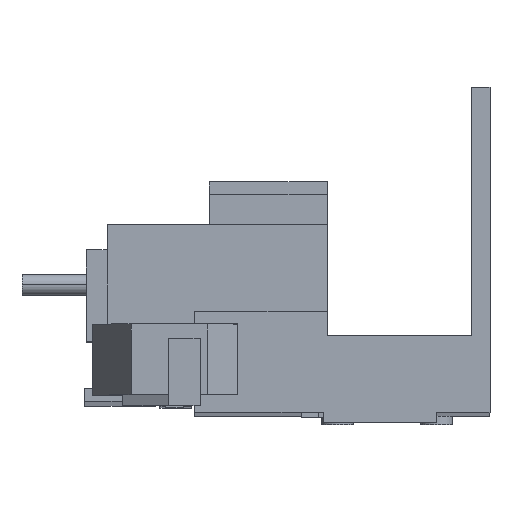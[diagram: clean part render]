
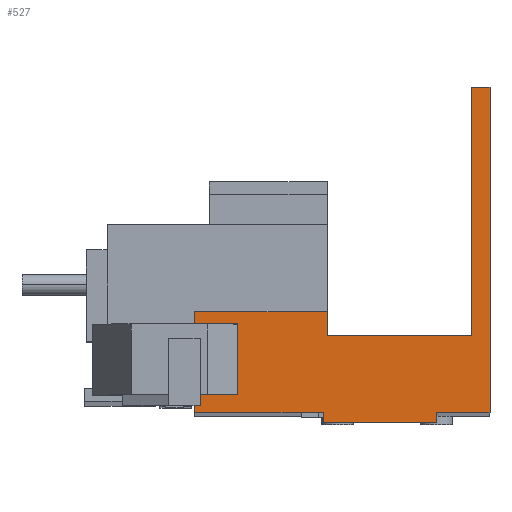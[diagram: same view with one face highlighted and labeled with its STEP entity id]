
A CAD part, front view. The second image highlights one B-rep face of the part: STEP entity #527.
In plain terms, the highlighted planar face has unit normal (0, -1, 0.002).
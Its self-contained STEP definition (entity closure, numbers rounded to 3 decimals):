
#190 = FACE_OUTER_BOUND ( 'NONE', #5348, .T. ) ;
#406 = VERTEX_POINT ( 'NONE', #3871 ) ;
#439 = DIRECTION ( 'NONE',  ( -1., 0., 0. ) ) ;
#440 = DIRECTION ( 'NONE',  ( 0., 1., -0.002 ) ) ;
#454 = CARTESIAN_POINT ( 'NONE',  ( 0., -33.075, -35.931 ) ) ;
#455 = PLANE ( 'NONE',  #2003 ) ;
#527 = ADVANCED_FACE ( 'NONE', ( #190 ), #455, .F. ) ;
#729 = CARTESIAN_POINT ( 'NONE',  ( 0., -32.98, 9.819 ) ) ;
#730 = DIRECTION ( 'NONE',  ( 0., 0.002, 1. ) ) ;
#800 = CARTESIAN_POINT ( 'NONE',  ( -41.6, -33.046, -21.831 ) ) ;
#801 = DIRECTION ( 'NONE',  ( -1., 0., 0. ) ) ;
#831 = CARTESIAN_POINT ( 'NONE',  ( -2.55, -32.98, 9.819 ) ) ;
#866 = VERTEX_POINT ( 'NONE', #5233 ) ;
#881 = ORIENTED_EDGE ( 'NONE', *, *, #1978, .T. ) ;
#886 = ORIENTED_EDGE ( 'NONE', *, *, #2271, .T. ) ;
#889 = ORIENTED_EDGE ( 'NONE', *, *, #2197, .T. ) ;
#901 = ORIENTED_EDGE ( 'NONE', *, *, #2106, .F. ) ;
#924 = ORIENTED_EDGE ( 'NONE', *, *, #2306, .T. ) ;
#929 = ORIENTED_EDGE ( 'NONE', *, *, #1868, .T. ) ;
#944 = ORIENTED_EDGE ( 'NONE', *, *, #2076, .T. ) ;
#980 = VERTEX_POINT ( 'NONE', #5284 ) ;
#994 = ORIENTED_EDGE ( 'NONE', *, *, #2211, .F. ) ;
#1004 = ORIENTED_EDGE ( 'NONE', *, *, #2165, .T. ) ;
#1014 = ORIENTED_EDGE ( 'NONE', *, *, #2201, .T. ) ;
#1035 = VERTEX_POINT ( 'NONE', #5311 ) ;
#1070 = VERTEX_POINT ( 'NONE', #5286 ) ;
#1073 = VERTEX_POINT ( 'NONE', #5328 ) ;
#1219 = VERTEX_POINT ( 'NONE', #4445 ) ;
#1228 = VERTEX_POINT ( 'NONE', #4416 ) ;
#1410 = VERTEX_POINT ( 'NONE', #4503 ) ;
#1432 = VERTEX_POINT ( 'NONE', #4512 ) ;
#1448 = ORIENTED_EDGE ( 'NONE', *, *, #1965, .T. ) ;
#1454 = ORIENTED_EDGE ( 'NONE', *, *, #2125, .T. ) ;
#1675 = VERTEX_POINT ( 'NONE', #5083 ) ;
#1868 = EDGE_CURVE ( 'NONE', #1228, #1073, #3530, .T. ) ;
#1965 = EDGE_CURVE ( 'NONE', #1432, #866, #2887, .T. ) ;
#1978 = EDGE_CURVE ( 'NONE', #1035, #1228, #2897, .T. ) ;
#2003 = AXIS2_PLACEMENT_3D ( 'NONE', #454, #440, #439 ) ;
#2076 = EDGE_CURVE ( 'NONE', #5496, #1432, #3512, .T. ) ;
#2106 = EDGE_CURVE ( 'NONE', #980, #1410, #3535, .T. ) ;
#2125 = EDGE_CURVE ( 'NONE', #866, #1675, #3574, .T. ) ;
#2165 = EDGE_CURVE ( 'NONE', #1219, #1070, #3372, .T. ) ;
#2197 = EDGE_CURVE ( 'NONE', #406, #5496, #2598, .T. ) ;
#2201 = EDGE_CURVE ( 'NONE', #980, #1219, #3599, .T. ) ;
#2211 = EDGE_CURVE ( 'NONE', #1410, #1073, #3055, .T. ) ;
#2271 = EDGE_CURVE ( 'NONE', #1070, #406, #2770, .T. ) ;
#2306 = EDGE_CURVE ( 'NONE', #1675, #1035, #3290, .T. ) ;
#2598 = LINE ( 'NONE', #3839, #3610 ) ;
#2692 = VECTOR ( 'NONE', #3897, 1000. ) ;
#2770 = LINE ( 'NONE', #729, #3389 ) ;
#2887 = LINE ( 'NONE', #4295, #3348 ) ;
#2897 = LINE ( 'NONE', #4381, #3529 ) ;
#3010 = VECTOR ( 'NONE', #4044, 1000. ) ;
#3055 = LINE ( 'NONE', #3807, #3161 ) ;
#3138 = VECTOR ( 'NONE', #3964, 1000. ) ;
#3161 = VECTOR ( 'NONE', #3806, 1000. ) ;
#3179 = VECTOR ( 'NONE', #801, 1000. ) ;
#3203 = VECTOR ( 'NONE', #3823, 1000. ) ;
#3290 = LINE ( 'NONE', #800, #3179 ) ;
#3348 = VECTOR ( 'NONE', #4293, 1000. ) ;
#3372 = LINE ( 'NONE', #3898, #2692 ) ;
#3389 = VECTOR ( 'NONE', #730, 1000. ) ;
#3512 = LINE ( 'NONE', #4049, #3010 ) ;
#3529 = VECTOR ( 'NONE', #4464, 1000. ) ;
#3530 = LINE ( 'NONE', #4678, #3581 ) ;
#3535 = LINE ( 'NONE', #4003, #3580 ) ;
#3574 = LINE ( 'NONE', #3965, #3138 ) ;
#3580 = VECTOR ( 'NONE', #3989, 1000. ) ;
#3581 = VECTOR ( 'NONE', #4665, 1000. ) ;
#3599 = LINE ( 'NONE', #3825, #3203 ) ;
#3610 = VECTOR ( 'NONE', #3832, 1000. ) ;
#3806 = DIRECTION ( 'NONE',  ( 0., 0.002, 1. ) ) ;
#3807 = CARTESIAN_POINT ( 'NONE',  ( -23.5, -33.078, -37.431 ) ) ;
#3823 = DIRECTION ( 'NONE',  ( 0., 0.002, 1. ) ) ;
#3825 = CARTESIAN_POINT ( 'NONE',  ( -7.5, -33.078, -37.431 ) ) ;
#3832 = DIRECTION ( 'NONE',  ( -1., 0., 0. ) ) ;
#3839 = CARTESIAN_POINT ( 'NONE',  ( -2.55, -32.98, 9.819 ) ) ;
#3871 = CARTESIAN_POINT ( 'NONE',  ( 0., -32.98, 9.819 ) ) ;
#3897 = DIRECTION ( 'NONE',  ( 1., 0., 0. ) ) ;
#3898 = CARTESIAN_POINT ( 'NONE',  ( 0., -33.075, -35.931 ) ) ;
#3964 = DIRECTION ( 'NONE',  ( 0., 0.002, 1. ) ) ;
#3965 = CARTESIAN_POINT ( 'NONE',  ( -22.92, -33.046, -21.831 ) ) ;
#3989 = DIRECTION ( 'NONE',  ( -1., 0., 0. ) ) ;
#4003 = CARTESIAN_POINT ( 'NONE',  ( -7.5, -33.078, -37.431 ) ) ;
#4044 = DIRECTION ( 'NONE',  ( 0., -0.002, -1. ) ) ;
#4049 = CARTESIAN_POINT ( 'NONE',  ( -2.55, -33.072, -34.474 ) ) ;
#4293 = DIRECTION ( 'NONE',  ( -1., 0., 0. ) ) ;
#4295 = CARTESIAN_POINT ( 'NONE',  ( -1.75, -33.053, -25.181 ) ) ;
#4381 = CARTESIAN_POINT ( 'NONE',  ( -41.6, -33.075, -35.931 ) ) ;
#4416 = CARTESIAN_POINT ( 'NONE',  ( -41.6, -33.075, -35.931 ) ) ;
#4445 = CARTESIAN_POINT ( 'NONE',  ( -7.5, -33.075, -35.931 ) ) ;
#4464 = DIRECTION ( 'NONE',  ( 0., -0.002, -1. ) ) ;
#4503 = CARTESIAN_POINT ( 'NONE',  ( -23.5, -33.078, -37.431 ) ) ;
#4512 = CARTESIAN_POINT ( 'NONE',  ( -2.55, -33.053, -25.181 ) ) ;
#4665 = DIRECTION ( 'NONE',  ( 1., 0., 0. ) ) ;
#4678 = CARTESIAN_POINT ( 'NONE',  ( 0., -33.075, -35.931 ) ) ;
#5083 = CARTESIAN_POINT ( 'NONE',  ( -22.92, -33.046, -21.831 ) ) ;
#5233 = CARTESIAN_POINT ( 'NONE',  ( -22.92, -33.053, -25.181 ) ) ;
#5284 = CARTESIAN_POINT ( 'NONE',  ( -7.5, -33.078, -37.431 ) ) ;
#5286 = CARTESIAN_POINT ( 'NONE',  ( 0., -33.075, -35.931 ) ) ;
#5311 = CARTESIAN_POINT ( 'NONE',  ( -41.6, -33.046, -21.831 ) ) ;
#5328 = CARTESIAN_POINT ( 'NONE',  ( -23.5, -33.075, -35.931 ) ) ;
#5348 = EDGE_LOOP ( 'NONE', ( #1448, #1454, #924, #881, #929, #994, #901, #1014, #1004, #886, #889, #944 ) ) ;
#5496 = VERTEX_POINT ( 'NONE', #831 ) ;
